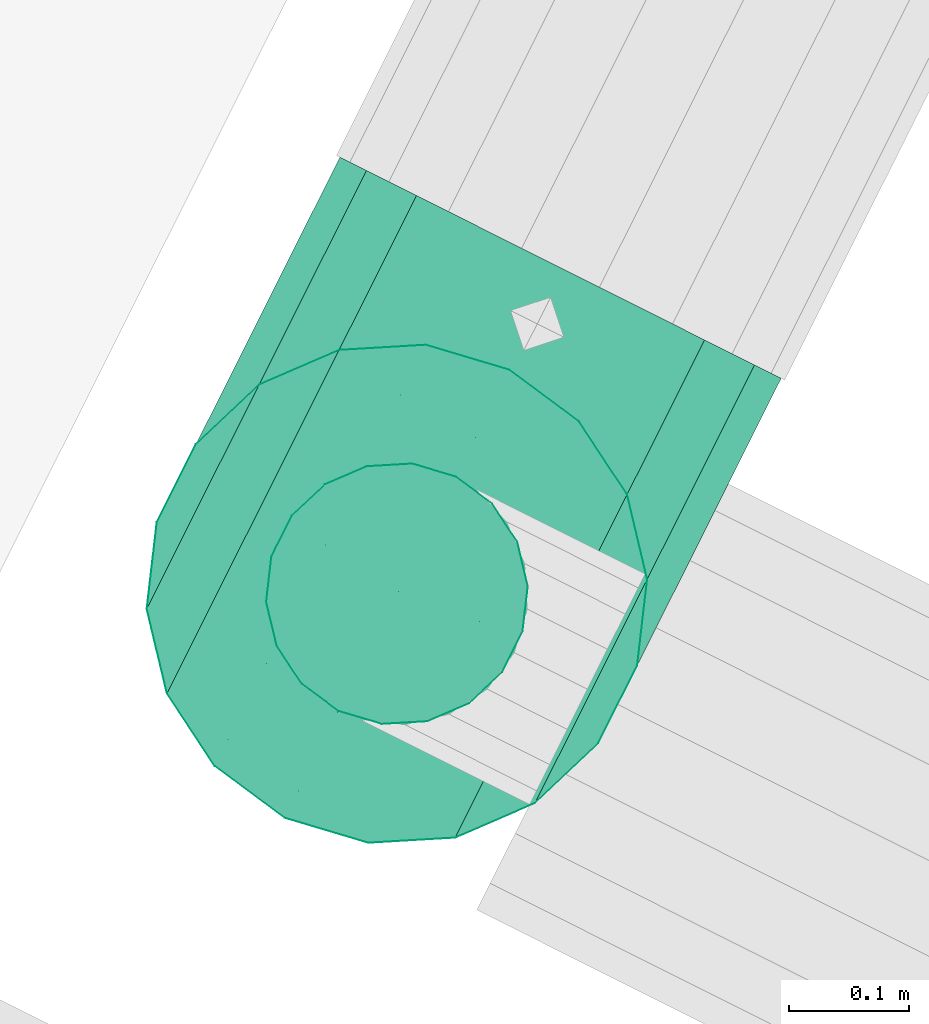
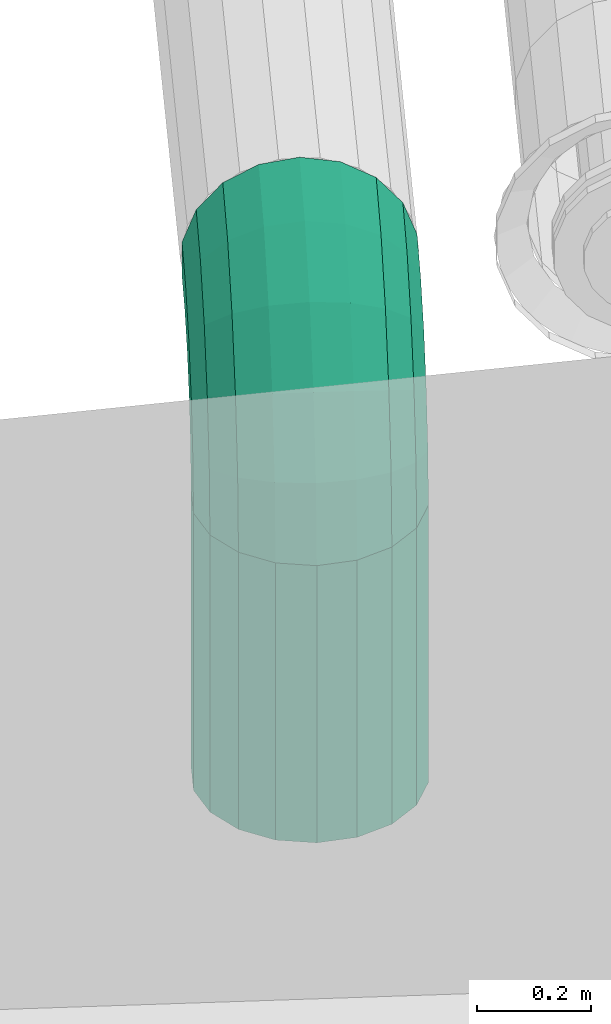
# One storey, part 76 of 152: 2 flow segments.
"""IFC2X3 building model written with IfcOpenShell, lengths in metres."""

from ifc_helpers import new_model, si_unit, derived_unit, direction, frame, origin, place, context, subcontext, project, spatial, face_set, surface_model, source, transform, mapped, material, type_object, type_shapes, element, save


model = new_model("IFC2X3")

# Units and contexts
model_context = context("Model", 3, precision=5.2338327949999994e-05, world=origin(), true_north=direction((0.0, 1.0)))
body_context = subcontext(model_context, "Body", "Model", "MODEL_VIEW")
ifc_project = project(units=[si_unit("LENGTHUNIT", "METRE"), si_unit("AREAUNIT", "SQUARE_METRE"), si_unit("VOLUMEUNIT", "CUBIC_METRE"), si_unit("MASSUNIT", "GRAM", prefix="KILO"), si_unit("PLANEANGLEUNIT", "RADIAN"), derived_unit("THERMALTRANSMITTANCEUNIT", [(si_unit("MASSUNIT", "GRAM", prefix="KILO"), 1), (si_unit("THERMODYNAMICTEMPERATUREUNIT", "KELVIN"), -1), (si_unit("TIMEUNIT", "SECOND"), -3)])], contexts=[model_context])

# Site, building, storey
site_placement = place(None, frame((0.0, 0.0, 0.0), z_axis=(0.0, 0.0, 1.0), x_axis=(0.8939966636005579, -0.4480736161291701, 0.0)))
site = spatial("IfcSite", under=ifc_project, at=site_placement, Name="Default", CompositionType="ELEMENT")
building_placement = place(site_placement, origin())
building = spatial("IfcBuilding", under=site, at=building_placement, CompositionType="ELEMENT")
storey_placement = place(building_placement, frame((0.0, 0.0, 2.7499999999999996)))
storey = spatial("IfcBuildingStorey", under=building, at=storey_placement, Name="1. Obergeschoss", CompositionType="ELEMENT", Elevation=2.7499999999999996)

# Flow segments
ifc_material = material(Name="IfcSurfaceStyle #9317")
distribution_element_type_1 = type_object("IfcDistributionElementType", Name="Rohrbogen 250935:Rohrbogen 250935", material=ifc_material)
shared_shape_1 = source(origin(), body_context, "Body", "SurfaceModel", [
    surface_model("IfcFaceBasedSurfaceModel", [(32.49539487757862, 8.938986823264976, 5.7451907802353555), (32.45792657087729, 8.938986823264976, 5.738584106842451), (32.45792657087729, 8.812925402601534, 5.718617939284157), (32.49539487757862, 8.810883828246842, 5.724901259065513), (32.45792657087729, 8.699203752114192, 5.660673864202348), (32.49539487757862, 8.695320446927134, 5.666018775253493), (32.45792657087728, 8.608953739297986, 5.570423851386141), (32.49539487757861, 8.603608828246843, 5.5743071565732), (32.45792657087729, 8.551009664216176, 5.4567022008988), (32.49539487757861, 8.544726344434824, 5.45874377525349), (32.45792657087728, 8.53104349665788, 5.330640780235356), (32.49539487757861, 8.52443682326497, 5.330640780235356), (32.42497749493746, 8.938986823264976, 5.719560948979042), (32.424977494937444, 8.818803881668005, 5.70052584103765), (32.42497749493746, 8.71038528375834, 5.645283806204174), (32.424977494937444, 8.624343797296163, 5.559242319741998), (32.424977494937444, 8.56910176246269, 5.4508237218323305), (32.424977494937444, 8.550066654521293, 5.330640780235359), (32.40052179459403, 8.938986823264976, 5.690415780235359), (32.40052179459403, 8.827810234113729, 5.672807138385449), (32.400521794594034, 8.72751638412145, 5.621704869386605), (32.40052179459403, 8.647922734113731, 5.542111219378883), (32.40052179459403, 8.59682046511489, 5.441817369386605), (32.40052179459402, 8.579211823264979, 5.330640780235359), (32.38750918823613, 8.938986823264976, 5.654663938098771), (32.38750918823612, 8.838858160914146, 5.638805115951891), (32.38750918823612, 8.748530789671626, 5.592781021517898), (32.38750918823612, 8.676846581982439, 5.52109681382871), (32.38750918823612, 8.630822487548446, 5.4307694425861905), (32.387509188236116, 8.614963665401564, 5.33064078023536), (32.38750918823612, 8.938986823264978, 5.6166176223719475), (32.38750918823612, 8.85061511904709, 5.602620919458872), (32.38750918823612, 8.770893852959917, 5.562000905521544), (32.38750918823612, 8.707626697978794, 5.4987337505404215), (32.38750918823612, 8.667006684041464, 5.419012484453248), (32.38750918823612, 8.653009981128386, 5.330640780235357), (32.40052179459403, 8.938986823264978, 5.580865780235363), (32.40052179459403, 8.861663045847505, 5.568618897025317), (32.40052179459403, 8.791908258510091, 5.533077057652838), (32.40052179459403, 8.736550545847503, 5.47771934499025), (32.40052179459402, 8.701008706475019, 5.407964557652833), (32.40052179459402, 8.688761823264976, 5.33064078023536), (32.424977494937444, 8.938986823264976, 5.551720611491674), (32.424977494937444, 8.870669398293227, 5.540900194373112), (32.424977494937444, 8.809039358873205, 5.509498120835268), (32.424977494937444, 8.760129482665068, 5.460588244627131), (32.424977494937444, 8.728727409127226, 5.398958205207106), (32.424977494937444, 8.71790699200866, 5.33064078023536), (32.45792657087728, 8.938986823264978, 5.53269745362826), (32.45792657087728, 8.876547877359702, 5.5228080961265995), (32.45792657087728, 8.820220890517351, 5.494108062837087), (32.45792657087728, 8.775519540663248, 5.449406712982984), (32.45792657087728, 8.746819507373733, 5.393079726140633), (32.45792657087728, 8.736930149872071, 5.330640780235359), (32.49539487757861, 8.938986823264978, 5.526090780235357), (32.49539487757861, 8.878589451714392, 5.516524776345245), (32.49539487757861, 8.824104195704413, 5.488763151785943), (32.495394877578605, 8.780864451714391, 5.445523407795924), (32.495394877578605, 8.75310282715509, 5.391038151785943), (32.49539487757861, 8.743536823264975, 5.330640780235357), (32.53286318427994, 8.938986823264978, 5.532697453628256), (32.53286318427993, 8.876547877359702, 5.522808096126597), (32.53286318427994, 8.820220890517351, 5.494108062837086), (32.53286318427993, 8.775519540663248, 5.4494067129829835), (32.53286318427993, 8.746819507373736, 5.393079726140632), (32.53286318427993, 8.736930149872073, 5.330640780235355), (32.56581226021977, 8.938986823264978, 5.551720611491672), (32.56581226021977, 8.87066939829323, 5.540900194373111), (32.565812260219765, 8.809039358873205, 5.509498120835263), (32.56581226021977, 8.76012948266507, 5.46058824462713), (32.565812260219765, 8.728727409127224, 5.3989582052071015), (32.565812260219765, 8.717906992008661, 5.330640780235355), (32.5902679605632, 8.938986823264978, 5.580865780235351), (32.5902679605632, 8.861663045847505, 5.568618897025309), (32.590267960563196, 8.791908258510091, 5.5330770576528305), (32.590267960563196, 8.736550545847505, 5.477719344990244), (32.590267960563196, 8.701008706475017, 5.407964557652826), (32.590267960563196, 8.688761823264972, 5.330640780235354), (32.6032805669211, 8.938986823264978, 5.616617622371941), (32.60328056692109, 8.85061511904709, 5.602620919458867), (32.6032805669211, 8.770893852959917, 5.562000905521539), (32.60328056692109, 8.707626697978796, 5.498733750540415), (32.60328056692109, 8.667006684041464, 5.419012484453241), (32.60328056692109, 8.653009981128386, 5.330640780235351), (32.60328056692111, 8.938986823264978, 5.654663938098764), (32.60328056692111, 8.838858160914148, 5.638805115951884), (32.60328056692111, 8.748530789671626, 5.592781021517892), (32.6032805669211, 8.67684658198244, 5.521096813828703), (32.60328056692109, 8.630822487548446, 5.430769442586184), (32.60328056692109, 8.614963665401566, 5.3306407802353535), (32.5902679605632, 8.938986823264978, 5.690415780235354), (32.590267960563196, 8.82781023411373, 5.672807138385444), (32.590267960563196, 8.727516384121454, 5.621704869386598), (32.59026796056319, 8.647922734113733, 5.542111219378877), (32.590267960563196, 8.59682046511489, 5.441817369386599), (32.59026796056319, 8.57921182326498, 5.330640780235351), (32.56581226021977, 8.938986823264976, 5.719560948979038), (32.56581226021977, 8.818803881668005, 5.700525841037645), (32.56581226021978, 8.710385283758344, 5.645283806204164), (32.56581226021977, 8.624343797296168, 5.5592423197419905), (32.56581226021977, 8.569101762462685, 5.450823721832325), (32.565812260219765, 8.550066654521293, 5.330640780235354), (32.53286318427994, 8.938986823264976, 5.73858410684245), (32.53286318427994, 8.812925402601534, 5.718617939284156), (32.53286318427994, 8.699203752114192, 5.660673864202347), (32.53286318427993, 8.608953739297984, 5.570423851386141), (32.53286318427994, 8.55100966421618, 5.456702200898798), (32.53286318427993, 8.531043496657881, 5.330640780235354), (32.49539487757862, 8.938986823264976, 5.845190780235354), (32.42372455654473, 8.938986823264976, 5.832553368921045), (32.42372455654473, 8.783887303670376, 5.807988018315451), (32.49539487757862, 8.779982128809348, 5.820006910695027), (32.42372455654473, 8.643970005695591, 5.736696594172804), (32.49539487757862, 8.636541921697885, 5.746920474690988), (32.42372455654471, 8.532931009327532, 5.625657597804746), (32.49539487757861, 8.52270712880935, 5.633085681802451), (32.42372455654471, 8.461639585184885, 5.48574029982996), (32.49539487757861, 8.44962069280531, 5.489645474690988), (32.42372455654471, 8.437074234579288, 5.33064078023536), (32.495394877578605, 8.424436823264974, 5.330640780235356), (32.36069873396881, 8.938986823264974, 5.796165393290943), (32.36069873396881, 8.795131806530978, 5.773380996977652), (32.3606987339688, 8.665358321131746, 5.7072581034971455), (32.3606987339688, 8.562369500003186, 5.604269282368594), (32.3606987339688, 8.496246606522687, 5.474495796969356), (32.360698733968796, 8.473462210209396, 5.330640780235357), (32.313919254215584, 8.938986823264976, 5.74041578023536), (32.313919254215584, 8.812359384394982, 5.720359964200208), (32.313919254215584, 8.698127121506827, 5.662155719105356), (32.313919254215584, 8.60747188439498, 5.57150048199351), (32.313919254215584, 8.54926763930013, 5.4572682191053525), (32.31391925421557, 8.529211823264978, 5.330640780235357), (32.28902841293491, 8.938986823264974, 5.672028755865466), (32.289028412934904, 8.833492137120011, 5.655320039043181), (32.289028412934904, 8.738324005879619, 5.606829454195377), (32.28902841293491, 8.662798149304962, 5.531303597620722), (32.2890284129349, 8.614307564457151, 5.436135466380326), (32.2890284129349, 8.59759884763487, 5.330640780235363), (32.289028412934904, 8.938986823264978, 5.599252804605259), (32.28902841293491, 8.855981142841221, 5.586105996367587), (32.289028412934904, 8.781100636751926, 5.547952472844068), (32.289028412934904, 8.721675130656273, 5.4885269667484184), (32.2890284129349, 8.683521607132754, 5.413646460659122), (32.289028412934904, 8.67037479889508, 5.330640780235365), (32.313919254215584, 8.938986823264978, 5.530865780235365), (32.313919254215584, 8.877113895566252, 5.52106607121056), (32.31391925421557, 8.821297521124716, 5.49262620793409), (32.31391925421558, 8.777001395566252, 5.448330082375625), (32.31391925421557, 8.748561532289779, 5.3925137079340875), (32.31391925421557, 8.738761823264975, 5.330640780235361), (32.360698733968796, 8.938986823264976, 5.475116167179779), (32.3606987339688, 8.894341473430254, 5.468045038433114), (32.36069873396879, 8.8540663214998, 5.447523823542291), (32.36069873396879, 8.822103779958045, 5.4155612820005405), (32.36069873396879, 8.801582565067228, 5.375286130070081), (32.36069873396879, 8.794511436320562, 5.33064078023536), (32.42372455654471, 8.938986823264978, 5.438728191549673), (32.42372455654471, 8.90558597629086, 5.433438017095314), (32.42372455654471, 8.875454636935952, 5.418085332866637), (32.42372455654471, 8.851542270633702, 5.3941729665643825), (32.42372455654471, 8.836189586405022, 5.3640416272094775), (32.42372455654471, 8.83089941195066, 5.33064078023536), (32.495394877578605, 8.938986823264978, 5.426090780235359), (32.495394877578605, 8.909491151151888, 5.421419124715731), (32.49539487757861, 8.882882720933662, 5.407861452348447), (32.495394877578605, 8.861766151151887, 5.386744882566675), (32.495394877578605, 8.848208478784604, 5.360136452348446), (32.49539487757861, 8.843536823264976, 5.330640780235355), (32.567065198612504, 8.938986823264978, 5.438728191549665), (32.567065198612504, 8.905585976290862, 5.433438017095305), (32.567065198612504, 8.875454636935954, 5.418085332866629), (32.5670651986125, 8.851542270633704, 5.394172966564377), (32.567065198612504, 8.836189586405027, 5.364041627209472), (32.567065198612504, 8.830899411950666, 5.3306407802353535), (32.63009102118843, 8.938986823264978, 5.47511616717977), (32.63009102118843, 8.894341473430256, 5.468045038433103), (32.63009102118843, 8.8540663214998, 5.447523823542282), (32.63009102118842, 8.822103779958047, 5.415561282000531), (32.63009102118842, 8.801582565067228, 5.375286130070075), (32.63009102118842, 8.79451143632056, 5.330640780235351), (32.67687050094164, 8.938986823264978, 5.530865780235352), (32.67687050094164, 8.877113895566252, 5.521066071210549), (32.67687050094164, 8.821297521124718, 5.4926262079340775), (32.67687050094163, 8.777001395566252, 5.448330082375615), (32.67687050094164, 8.74856153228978, 5.392513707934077), (32.676870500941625, 8.738761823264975, 5.330640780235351), (32.701761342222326, 8.938986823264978, 5.599252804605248), (32.701761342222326, 8.855981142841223, 5.586105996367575), (32.70176134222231, 8.781100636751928, 5.547952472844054), (32.70176134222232, 8.721675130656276, 5.488526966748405), (32.70176134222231, 8.683521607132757, 5.413646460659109), (32.70176134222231, 8.670374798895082, 5.330640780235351), (32.701761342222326, 8.938986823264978, 5.672028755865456), (32.701761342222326, 8.833492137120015, 5.655320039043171), (32.70176134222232, 8.73832400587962, 5.606829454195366), (32.70176134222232, 8.662798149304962, 5.5313035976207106), (32.70176134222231, 8.614307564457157, 5.436135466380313), (32.70176134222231, 8.597598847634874, 5.330640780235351), (32.67687050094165, 8.938986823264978, 5.740415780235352), (32.67687050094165, 8.812359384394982, 5.720359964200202), (32.67687050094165, 8.698127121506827, 5.662155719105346), (32.67687050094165, 8.607471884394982, 5.5715004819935), (32.67687050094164, 8.549267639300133, 5.457268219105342), (32.67687050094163, 8.529211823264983, 5.330640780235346), (32.630091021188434, 8.938986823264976, 5.796165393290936), (32.630091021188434, 8.79513180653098, 5.773380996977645), (32.630091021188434, 8.665358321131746, 5.70725810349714), (32.630091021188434, 8.562369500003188, 5.604269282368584), (32.63009102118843, 8.496246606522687, 5.4744957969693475), (32.63009102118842, 8.473462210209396, 5.330640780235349), (32.56706519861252, 8.938986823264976, 5.83255336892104), (32.56706519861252, 8.783887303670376, 5.807988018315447), (32.56706519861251, 8.643970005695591, 5.736696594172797), (32.56706519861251, 8.532931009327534, 5.62565759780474), (32.567065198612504, 8.461639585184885, 5.485740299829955), (32.567065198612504, 8.43707423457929, 5.330640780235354)], [face_set([[[0, 1, 2, 3]], [[3, 2, 4, 5]], [[5, 4, 6, 7]], [[7, 6, 8, 9]], [[9, 8, 10, 11]], [[1, 12, 13, 2]], [[2, 13, 14, 4]], [[4, 14, 15, 6]], [[6, 15, 16, 8]], [[8, 16, 17, 10]], [[12, 18, 19, 13]], [[13, 19, 20, 14]], [[14, 20, 21, 15]], [[15, 21, 22, 16]], [[16, 22, 23, 17]], [[18, 24, 25, 19]], [[19, 25, 26, 20]], [[20, 26, 27, 21]], [[21, 27, 28, 22]], [[22, 28, 29, 23]], [[24, 30, 31, 25]], [[25, 31, 32, 26]], [[26, 32, 33, 27]], [[27, 33, 34, 28]], [[28, 34, 35, 29]], [[30, 36, 37, 31]], [[31, 37, 38, 32]], [[32, 38, 39, 33]], [[33, 39, 40, 34]], [[34, 40, 41, 35]], [[36, 42, 43, 37]], [[37, 43, 44, 38]], [[38, 44, 45, 39]], [[39, 45, 46, 40]], [[40, 46, 47, 41]], [[42, 48, 49, 43]], [[43, 49, 50, 44]], [[44, 50, 51, 45]], [[45, 51, 52, 46]], [[46, 52, 53, 47]], [[48, 54, 55, 49]], [[49, 55, 56, 50]], [[50, 56, 57, 51]], [[51, 57, 58, 52]], [[52, 58, 59, 53]], [[54, 60, 61, 55]], [[55, 61, 62, 56]], [[56, 62, 63, 57]], [[57, 63, 64, 58]], [[58, 64, 65, 59]], [[60, 66, 67, 61]], [[61, 67, 68, 62]], [[62, 68, 69, 63]], [[63, 69, 70, 64]], [[64, 70, 71, 65]], [[66, 72, 73, 67]], [[67, 73, 74, 68]], [[68, 74, 75, 69]], [[69, 75, 76, 70]], [[70, 76, 77, 71]], [[72, 78, 79, 73]], [[73, 79, 80, 74]], [[74, 80, 81, 75]], [[75, 81, 82, 76]], [[76, 82, 83, 77]], [[78, 84, 85, 79]], [[79, 85, 86, 80]], [[80, 86, 87, 81]], [[81, 87, 88, 82]], [[82, 88, 89, 83]], [[84, 90, 91, 85]], [[85, 91, 92, 86]], [[86, 92, 93, 87]], [[87, 93, 94, 88]], [[88, 94, 95, 89]], [[90, 96, 97, 91]], [[91, 97, 98, 92]], [[92, 98, 99, 93]], [[93, 99, 100, 94]], [[94, 100, 101, 95]], [[96, 102, 103, 97]], [[97, 103, 104, 98]], [[98, 104, 105, 99]], [[99, 105, 106, 100]], [[100, 106, 107, 101]], [[102, 0, 3, 103]], [[103, 3, 5, 104]], [[104, 5, 7, 105]], [[105, 7, 9, 106]], [[106, 9, 11, 107]], [[108, 109, 110, 111]], [[111, 110, 112, 113]], [[113, 112, 114, 115]], [[115, 114, 116, 117]], [[117, 116, 118, 119]], [[109, 120, 121, 110]], [[110, 121, 122, 112]], [[112, 122, 123, 114]], [[114, 123, 124, 116]], [[116, 124, 125, 118]], [[120, 126, 127, 121]], [[121, 127, 128, 122]], [[122, 128, 129, 123]], [[123, 129, 130, 124]], [[124, 130, 131, 125]], [[126, 132, 133, 127]], [[127, 133, 134, 128]], [[128, 134, 135, 129]], [[129, 135, 136, 130]], [[130, 136, 137, 131]], [[132, 138, 139, 133]], [[133, 139, 140, 134]], [[134, 140, 141, 135]], [[135, 141, 142, 136]], [[136, 142, 143, 137]], [[138, 144, 145, 139]], [[139, 145, 146, 140]], [[140, 146, 147, 141]], [[141, 147, 148, 142]], [[142, 148, 149, 143]], [[144, 150, 151, 145]], [[145, 151, 152, 146]], [[146, 152, 153, 147]], [[147, 153, 154, 148]], [[148, 154, 155, 149]], [[150, 156, 157, 151]], [[151, 157, 158, 152]], [[152, 158, 159, 153]], [[153, 159, 160, 154]], [[154, 160, 161, 155]], [[156, 162, 163, 157]], [[157, 163, 164, 158]], [[158, 164, 165, 159]], [[159, 165, 166, 160]], [[160, 166, 167, 161]], [[162, 168, 169, 163]], [[163, 169, 170, 164]], [[164, 170, 171, 165]], [[165, 171, 172, 166]], [[166, 172, 173, 167]], [[168, 174, 175, 169]], [[169, 175, 176, 170]], [[170, 176, 177, 171]], [[171, 177, 178, 172]], [[172, 178, 179, 173]], [[174, 180, 181, 175]], [[175, 181, 182, 176]], [[176, 182, 183, 177]], [[177, 183, 184, 178]], [[178, 184, 185, 179]], [[180, 186, 187, 181]], [[181, 187, 188, 182]], [[182, 188, 189, 183]], [[183, 189, 190, 184]], [[184, 190, 191, 185]], [[186, 192, 193, 187]], [[187, 193, 194, 188]], [[188, 194, 195, 189]], [[189, 195, 196, 190]], [[190, 196, 197, 191]], [[192, 198, 199, 193]], [[193, 199, 200, 194]], [[194, 200, 201, 195]], [[195, 201, 202, 196]], [[196, 202, 203, 197]], [[198, 204, 205, 199]], [[199, 205, 206, 200]], [[200, 206, 207, 201]], [[201, 207, 208, 202]], [[202, 208, 209, 203]], [[204, 210, 211, 205]], [[205, 211, 212, 206]], [[206, 212, 213, 207]], [[207, 213, 214, 208]], [[208, 214, 215, 209]], [[210, 108, 111, 211]], [[211, 111, 113, 212]], [[212, 113, 115, 213]], [[213, 115, 117, 214]], [[214, 117, 119, 215]]])]),
])
type_shapes(distribution_element_type_1, [shared_shape_1])
flow_segment_1_placement = place(storey_placement, frame((0.0, 0.0, -2.7499999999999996)))
element("IfcFlowSegment", 1, at=flow_segment_1_placement, inside=storey, type_object=distribution_element_type_1, material=ifc_material, Name="Rohrbogen", ObjectType="Rohrbogen", context=body_context, shape_type="MappedRepresentation", body=[
    mapped(shared_shape_1, transform((0.0, 0.0, 0.0), scale=1.0)),
])
distribution_element_type_2 = type_object("IfcDistributionElementType", Name="Stahlrohr nach DIN 2448 250958:Stahlrohr nach DIN 2448 250958", material=ifc_material)
shared_shape_2 = source(origin(), body_context, "Body", "SurfaceModel", [
    surface_model("IfcFaceBasedSurfaceModel", [(32.49539487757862, 8.524436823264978, 4.737549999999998), (32.53286318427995, 8.531043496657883, 4.737549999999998), (32.53286318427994, 8.531043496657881, 5.330640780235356), (32.49539487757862, 8.524436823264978, 5.330640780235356), (32.56581226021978, 8.550066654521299, 4.737549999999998), (32.56581226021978, 8.550066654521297, 5.330640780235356), (32.5902679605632, 8.57921182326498, 4.737549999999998), (32.590267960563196, 8.579211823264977, 5.330640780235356), (32.6032805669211, 8.61496366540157, 4.737549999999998), (32.6032805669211, 8.614963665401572, 5.330640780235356), (32.60328056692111, 8.653009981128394, 4.737549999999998), (32.60328056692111, 8.653009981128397, 5.330640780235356), (32.5902679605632, 8.688761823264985, 4.737549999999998), (32.5902679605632, 8.688761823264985, 5.330640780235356), (32.56581226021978, 8.717906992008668, 4.737549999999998), (32.56581226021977, 8.717906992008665, 5.330640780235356), (32.53286318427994, 8.736930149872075, 4.737549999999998), (32.53286318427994, 8.736930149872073, 5.330640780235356), (32.49539487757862, 8.74353682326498, 4.737549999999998), (32.49539487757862, 8.74353682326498, 5.330640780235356), (32.45792657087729, 8.736930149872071, 4.737549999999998), (32.45792657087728, 8.736930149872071, 5.330640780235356), (32.42497749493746, 8.71790699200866, 4.737549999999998), (32.424977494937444, 8.717906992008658, 5.330640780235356), (32.40052179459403, 8.688761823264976, 4.737549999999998), (32.40052179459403, 8.688761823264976, 5.330640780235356), (32.38750918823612, 8.653009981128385, 4.737549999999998), (32.38750918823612, 8.653009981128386, 5.330640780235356), (32.38750918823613, 8.614963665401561, 4.737549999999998), (32.38750918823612, 8.61496366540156, 5.330640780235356), (32.40052179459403, 8.579211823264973, 4.737549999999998), (32.40052179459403, 8.579211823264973, 5.330640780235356), (32.42497749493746, 8.550066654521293, 4.737549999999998), (32.424977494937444, 8.550066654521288, 5.330640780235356), (32.4579265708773, 8.531043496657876, 4.737549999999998), (32.45792657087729, 8.531043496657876, 5.330640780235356), (32.49539487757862, 8.424436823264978, 4.737549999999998), (32.567065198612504, 8.437074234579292, 4.737549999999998), (32.567065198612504, 8.437074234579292, 5.330640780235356), (32.49539487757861, 8.424436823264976, 5.330640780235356), (32.630091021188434, 8.4734622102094, 4.737549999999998), (32.63009102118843, 8.4734622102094, 5.330640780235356), (32.67687050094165, 8.529211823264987, 4.737549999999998), (32.67687050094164, 8.529211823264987, 5.330640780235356), (32.701761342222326, 8.597598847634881, 4.737549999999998), (32.701761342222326, 8.597598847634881, 5.330640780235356), (32.701761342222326, 8.670374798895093, 4.737549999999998), (32.701761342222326, 8.670374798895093, 5.330640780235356), (32.67687050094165, 8.738761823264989, 4.737549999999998), (32.67687050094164, 8.738761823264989, 5.330640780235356), (32.630091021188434, 8.794511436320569, 4.737549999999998), (32.63009102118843, 8.794511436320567, 5.330640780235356), (32.56706519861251, 8.830899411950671, 4.737549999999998), (32.567065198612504, 8.83089941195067, 5.330640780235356), (32.49539487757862, 8.843536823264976, 4.737549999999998), (32.49539487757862, 8.843536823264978, 5.330640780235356), (32.42372455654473, 8.830899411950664, 4.737549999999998), (32.42372455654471, 8.83089941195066, 5.330640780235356), (32.3606987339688, 8.794511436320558, 4.737549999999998), (32.360698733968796, 8.794511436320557, 5.330640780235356), (32.31391925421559, 8.738761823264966, 4.737549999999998), (32.313919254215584, 8.738761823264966, 5.330640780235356), (32.289028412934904, 8.670374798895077, 4.737549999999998), (32.289028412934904, 8.670374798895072, 5.330640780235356), (32.289028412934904, 8.597598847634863, 4.737549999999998), (32.289028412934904, 8.59759884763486, 5.330640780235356), (32.31391925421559, 8.52921182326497, 4.737549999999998), (32.31391925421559, 8.529211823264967, 5.330640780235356), (32.360698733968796, 8.473462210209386, 4.737549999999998), (32.360698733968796, 8.473462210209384, 5.330640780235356), (32.42372455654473, 8.437074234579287, 4.737549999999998), (32.42372455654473, 8.437074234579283, 5.330640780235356)], [face_set([[[0, 1, 2, 3]], [[1, 4, 5, 2]], [[4, 6, 7, 5]], [[6, 8, 9, 7]], [[8, 10, 11, 9]], [[10, 12, 13, 11]], [[12, 14, 15, 13]], [[14, 16, 17, 15]], [[16, 18, 19, 17]], [[18, 20, 21, 19]], [[20, 22, 23, 21]], [[22, 24, 25, 23]], [[24, 26, 27, 25]], [[26, 28, 29, 27]], [[28, 30, 31, 29]], [[30, 32, 33, 31]], [[32, 34, 35, 33]], [[34, 0, 3, 35]], [[36, 37, 38, 39]], [[37, 40, 41, 38]], [[40, 42, 43, 41]], [[42, 44, 45, 43]], [[44, 46, 47, 45]], [[46, 48, 49, 47]], [[48, 50, 51, 49]], [[50, 52, 53, 51]], [[52, 54, 55, 53]], [[54, 56, 57, 55]], [[56, 58, 59, 57]], [[58, 60, 61, 59]], [[60, 62, 63, 61]], [[62, 64, 65, 63]], [[64, 66, 67, 65]], [[66, 68, 69, 67]], [[68, 70, 71, 69]], [[70, 36, 39, 71]]])]),
])
type_shapes(distribution_element_type_2, [shared_shape_2])
flow_segment_2_placement = place(storey_placement, frame((0.0, 0.0, -2.7499999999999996)))
element("IfcFlowSegment", 2, at=flow_segment_2_placement, inside=storey, type_object=distribution_element_type_2, material=ifc_material, Name="Stahlrohr nach DIN 2448", ObjectType="Stahlrohr nach DIN 2448", context=body_context, shape_type="MappedRepresentation", body=[
    mapped(shared_shape_2, transform((0.0, 0.0, 0.0), scale=1.0)),
])

save(model, "model.ifc")
